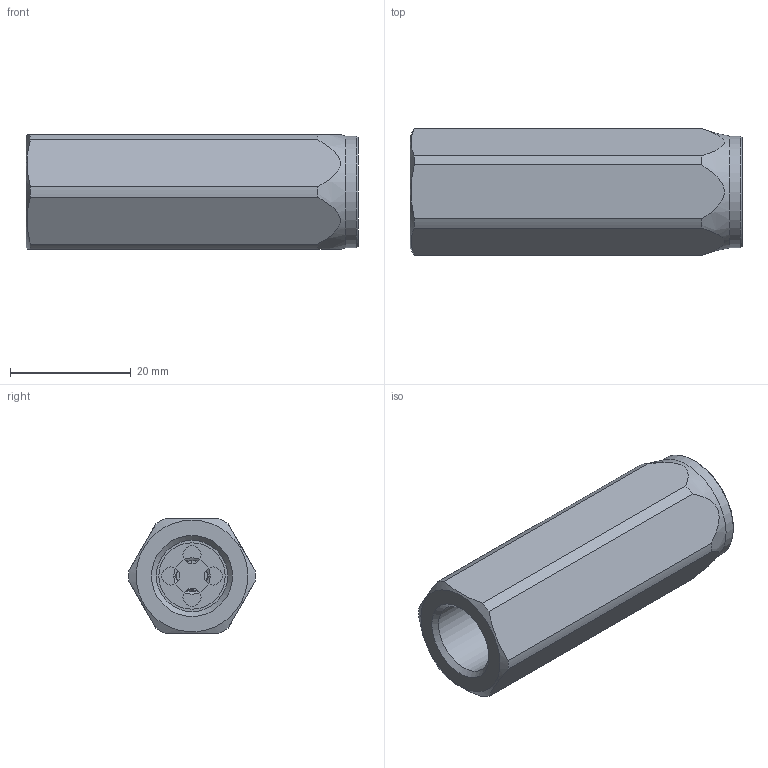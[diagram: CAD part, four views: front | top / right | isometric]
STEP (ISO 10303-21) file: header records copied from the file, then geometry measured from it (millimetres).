
FILE_DESCRIPTION (( 'STEP AP214' ), '1' );
FILE_NAME ('VUR140.STEP', '2020-06-15T06:58:03', ( '' ), ( '' ), 'SwSTEP 2.0', 'SolidWorks 2017', '' );
FILE_SCHEMA (( 'AUTOMOTIVE_DESIGN' ));
Length unit declared in the file: millimetre
Products named in the file (1): VUR140
Bounding box: 55 x 20.99 x 19 mm (x, y, z)
Volume: 13182.1 mm3; surface area: 8225.3 mm2
Topology: 6 solids, 6 shells, 89 faces, 199 edges, 124 vertices
Faces by surface type: plane 29, cylinder 28, cone 23, bspline 5, torus 3, sphere 1
Full cylindrical faces by diameter (mm): 3 x8, 3.8 x1, 5 x1, 7 x1, 8 x1, 8.1 x1, 9 x1, 11 x2, 11.8 x2, 13.157 x2, 13.5 x1, 18.5 x1
Entity records: 5698 total; most frequent: CARTESIAN_POINT 2942, DIRECTION 345, ORIENTED_EDGE 266, EDGE_LOOP 164, AXIS2_PLACEMENT_3D 160, EDGE_CURVE 133, FACE_OUTER_BOUND 115, VERTEX_POINT 111
